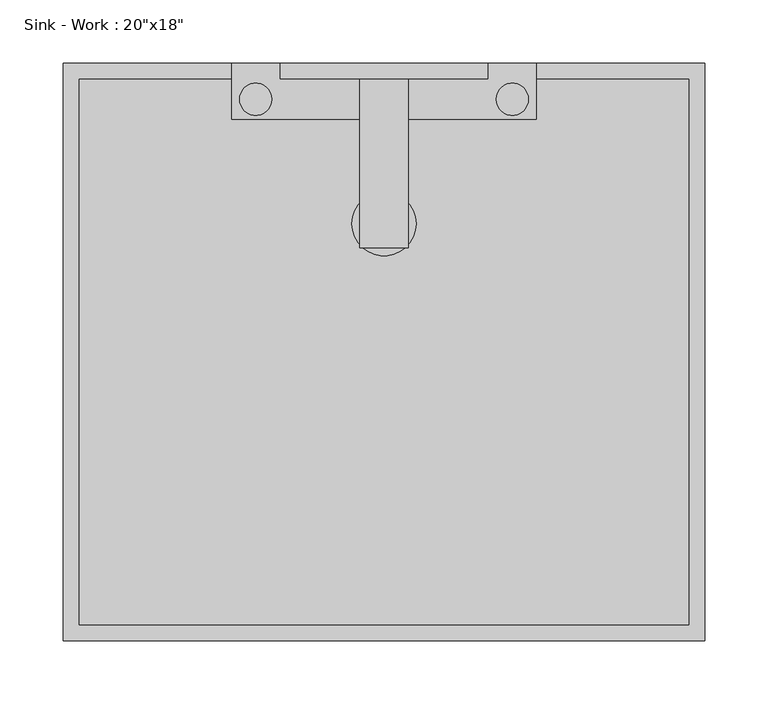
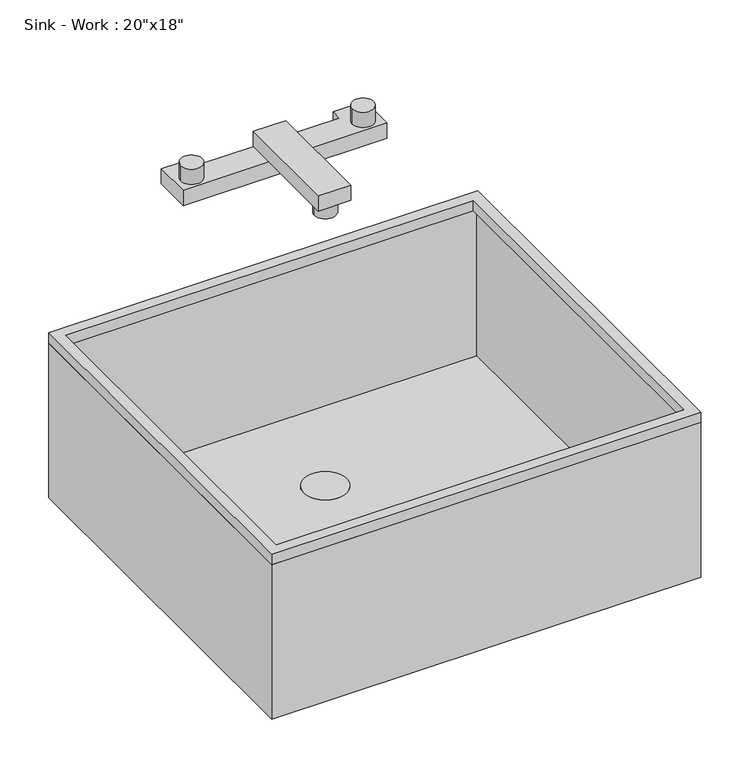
"""IFC4 building model written with IfcOpenShell, lengths in millimetres: flow terminal geometry."""

from ifc_helpers import new_model, si_unit, point, frame, frame_2d, origin, origin_with_axes, place, context, project, spatial, polyline, circle_curve, trimmed, segment, composite_curve, outline, extrude, faceted_brep, source, transform, mapped, element, save
from ifc_brep_helpers import plane_surface, cylinder_surface, advanced_brep


def flow_terminal_98dee406(model_context):
    return source(origin(), model_context, "Body", "SolidModel", [
        extrude(outline(polyline([(254.0, 0.0), (254.0, -457.2), (-254.0, -457.2), (-254.0, 0.0), (254.0, 0.0)]), holes=[polyline([(241.3, -12.7), (-241.3, -12.7), (-241.3, -444.5), (241.3, -444.5), (241.3, -12.7)])]), frame((0.0, 0.0, 193.675), z_axis=(0.0, 0.0, 1.0), x_axis=(1.0, 0.0, 0.0)), (0.0, 0.0, 1.0), 12.7),
        extrude(outline(composite_curve([segment(trimmed(circle_curve(frame_2d((0.0, -127.0)), 25.4), [point((-25.4, -127.0))], [point((25.4, -127.0))], False, "CARTESIAN"), True, "CONTINUOUS"), segment(trimmed(circle_curve(frame_2d((0.0, -127.0)), 25.4), [point((25.4, -127.0))], [point((-25.4, -127.0))], False, "CARTESIAN"), True, "CONTINUOUS")], self_intersect=False)), origin_with_axes(), (0.0, 0.0, 1.0), 3.175),
        faceted_brep([(254.0, 0.0, 193.675), (-254.0, 0.0, 193.675), (-254.0, -457.2, 193.675), (254.0, -457.2, 193.675), (250.825, -3.175, 193.675), (250.825, -454.025, 193.675), (-250.825, -454.025, 193.675), (-250.825, -3.175, 193.675), (254.0, 0.0, 0.0), (254.0, -457.2, 0.0), (-254.0, -457.2, 0.0), (-254.0, 0.0, 0.0), (250.825, -3.175, 3.175), (250.825, -454.025, 3.175), (-250.825, -454.025, 3.175), (-250.825, -3.175, 3.175)], [[[0, 1, 2, 3], [4, 5, 6, 7]], [[8, 9, 10, 11]], [[1, 0, 8, 11]], [[2, 1, 11, 10]], [[3, 2, 10, 9]], [[0, 3, 9, 8]], [[5, 4, 12, 13]], [[6, 5, 13, 14]], [[7, 6, 14, 15]], [[4, 7, 15, 12]], [[13, 12, 15, 14]]]),
        advanced_brep(
        [(19.05, -12.7, 384.175), (-19.05, -12.7, 384.175), (-19.05, -146.05, 384.175), (19.05, -146.05, 384.175), (19.05, -146.05, 365.125), (-19.05, -146.05, 365.125), (-19.05, -44.45, 365.125), (19.05, -44.45, 365.125), (-12.7, -127.0, 365.125), (12.7, -127.0, 365.125), (19.05, -12.7, 365.125), (82.55, -12.7, 365.125), (82.55, -12.7, 346.075), (-82.55, -12.7, 346.075), (-82.55, -12.7, 365.125), (-19.05, -12.7, 365.125), (-12.7, -127.0, 346.075), (12.7, -127.0, 346.075), (-82.55, 0.0, 365.125), (-120.65, 0.0, 365.125), (-120.65, -44.45, 365.125), (-88.9, -28.575, 365.125), (-114.3, -28.575, 365.125), (120.65, -44.45, 365.125), (120.65, 0.0, 365.125), (82.55, 0.0, 365.125), (114.3, -28.575, 365.125), (88.9, -28.575, 365.125), (-82.55, 0.0, 346.075), (82.55, 0.0, 346.075), (120.65, 0.0, 346.075), (120.65, -44.45, 346.075), (-120.65, -44.45, 346.075), (-120.65, 0.0, 346.075), (-114.3, -28.575, 384.175), (-88.9, -28.575, 384.175), (88.9, -28.575, 384.175), (114.3, -28.575, 384.175)],
        [
            (0, 1),
            (1, 2),
            (2, 3),
            (3, 0),
            (4, 5),
            (5, 6),
            (6, 7),
            (7, 4),
            (8, 9, circle_curve(frame((0.0, -127.0, 365.125), z_axis=(0.0, 0.0, 1.0), x_axis=(1.0, 0.0, 0.0)), 12.7)),
            (9, 8, circle_curve(frame((0.0, -127.0, 365.125), z_axis=(0.0, 0.0, 1.0), x_axis=(1.0, 0.0, 0.0)), 12.7)),
            (0, 10),
            (10, 11),
            (11, 12),
            (12, 13),
            (13, 14),
            (14, 15),
            (15, 1),
            (15, 6),
            (5, 2),
            (4, 3),
            (7, 10),
            (16, 17, circle_curve(frame((0.0, -127.0, 346.075), z_axis=(0.0, 0.0, -1.0), x_axis=(1.0, 0.0, 0.0)), 12.7)),
            (17, 16, circle_curve(frame((0.0, -127.0, 346.075), z_axis=(0.0, 0.0, -1.0), x_axis=(1.0, 0.0, 0.0)), 12.7)),
            (17, 9),
            (8, 16),
            (18, 19),
            (19, 20),
            (20, 6),
            (14, 18),
            (21, 22, circle_curve(frame((-101.6, -28.575, 365.125), z_axis=(0.0, 0.0, -1.0), x_axis=(1.0, 0.0, 0.0)), 12.7)),
            (22, 21, circle_curve(frame((-101.6, -28.575, 365.125), z_axis=(0.0, 0.0, -1.0), x_axis=(1.0, 0.0, 0.0)), 12.7)),
            (23, 24),
            (24, 25),
            (25, 11),
            (7, 23),
            (26, 27, circle_curve(frame((101.6, -28.575, 365.125), z_axis=(0.0, 0.0, -1.0), x_axis=(1.0, 0.0, 0.0)), 12.7)),
            (27, 26, circle_curve(frame((101.6, -28.575, 365.125), z_axis=(0.0, 0.0, -1.0), x_axis=(1.0, 0.0, 0.0)), 12.7)),
            (28, 13),
            (12, 29),
            (29, 30),
            (30, 31),
            (31, 32),
            (32, 33),
            (33, 28),
            (18, 28),
            (33, 19),
            (32, 20),
            (31, 23),
            (30, 24),
            (29, 25),
            (34, 35, circle_curve(frame((-101.6, -28.575, 384.175), z_axis=(0.0, 0.0, 1.0), x_axis=(1.0, 0.0, 0.0)), 12.7)),
            (35, 34, circle_curve(frame((-101.6, -28.575, 384.175), z_axis=(0.0, 0.0, 1.0), x_axis=(1.0, 0.0, 0.0)), 12.7)),
            (36, 37, circle_curve(frame((101.6, -28.575, 384.175), z_axis=(0.0, 0.0, 1.0), x_axis=(1.0, 0.0, 0.0)), 12.7)),
            (37, 36, circle_curve(frame((101.6, -28.575, 384.175), z_axis=(0.0, 0.0, 1.0), x_axis=(1.0, 0.0, 0.0)), 12.7)),
            (34, 22),
            (21, 35),
            (36, 27),
            (26, 37),
        ],
        [
            plane_surface(frame((-19.05, -12.7, 384.175), z_axis=(0.0, 0.0, 1.0), x_axis=(-1.0, 0.0, 0.0))),
            plane_surface(frame((-19.05, -12.7, 365.125), z_axis=(0.0, 0.0, -1.0), x_axis=(1.0, 0.0, 0.0))),
            plane_surface(frame((19.05, -12.7, 384.175), z_axis=(0.0, 1.0, 0.0), x_axis=(0.0, 0.0, -1.0))),
            plane_surface(frame((-19.05, -12.7, 384.175), z_axis=(-1.0, 0.0, 0.0), x_axis=(0.0, 0.0, -1.0))),
            plane_surface(frame((-19.05, -146.05, 384.175), z_axis=(0.0, -1.0, 0.0), x_axis=(0.0, 0.0, -1.0))),
            plane_surface(frame((19.05, -146.05, 384.175), z_axis=(1.0, 0.0, 0.0), x_axis=(0.0, 0.0, -1.0))),
            plane_surface(frame((12.7, -127.0, 346.075), z_axis=(0.0, 0.0, -1.0), x_axis=(0.0, -1.0, 0.0))),
            cylinder_surface(frame((0.0, -127.0, 346.075), z_axis=(0.0, 0.0, 1.0), x_axis=(1.0, 0.0, 0.0)), 12.7),
            plane_surface(frame((-120.65, 0.0, 365.125), z_axis=(0.0, 0.0, 1.0), x_axis=(-1.0, 0.0, 0.0))),
            plane_surface(frame((-120.65, 0.0, 346.075), z_axis=(0.0, 0.0, -1.0), x_axis=(1.0, 0.0, 0.0))),
            plane_surface(frame((-82.55, 0.0, 365.125), z_axis=(0.0, 1.0, 0.0), x_axis=(0.0, 0.0, -1.0))),
            plane_surface(frame((-120.65, 0.0, 365.125), z_axis=(-1.0, 0.0, 0.0), x_axis=(0.0, 0.0, -1.0))),
            plane_surface(frame((-120.65, -44.45, 365.125), z_axis=(0.0, -1.0, 0.0), x_axis=(0.0, 0.0, -1.0))),
            plane_surface(frame((120.65, -44.45, 365.125), z_axis=(1.0, 0.0, 0.0), x_axis=(0.0, 0.0, -1.0))),
            plane_surface(frame((120.65, 0.0, 365.125), z_axis=(0.0, 1.0, 0.0), x_axis=(0.0, 0.0, -1.0))),
            plane_surface(frame((82.55, 0.0, 365.125), z_axis=(-1.0, 0.0, 0.0), x_axis=(0.0, 0.0, -1.0))),
            plane_surface(frame((-82.55, -12.7, 365.125), z_axis=(1.0, 0.0, 0.0), x_axis=(0.0, 0.0, -1.0))),
            plane_surface(frame((-88.9, -28.575, 384.175), z_axis=(0.0, 0.0, 1.0), x_axis=(0.0, 1.0, 0.0))),
            cylinder_surface(frame((-101.6, -28.575, 365.125), z_axis=(0.0, 0.0, 1.0), x_axis=(1.0, 0.0, 0.0)), 12.7),
            cylinder_surface(frame((101.6, -28.575, 0.0), z_axis=(0.0, 0.0, 1.0), x_axis=(1.0, 0.0, 0.0)), 12.7),
        ],
        [
            (0, [[1, 2, 3, 4]]),
            (1, [[5, 6, 7, 8], [9, 10]]),
            (2, [[-1, 11, 12, 13, 14, 15, 16, 17]]),
            (3, [[-2, -17, 18, -6, 19]]),
            (4, [[-3, -19, -5, 20]]),
            (5, [[-4, -20, -8, 21, -11]]),
            (6, [[22, 23]]),
            (7, [[-23, 24, -9, 25]]),
            (7, [[-22, -25, -10, -24]]),
            (8, [[26, 27, 28, -18, -16, 29], [30, 31]]),
            (8, [[32, 33, 34, -12, -21, 35], [36, 37]]),
            (9, [[38, -14, 39, 40, 41, 42, 43, 44]]),
            (10, [[-26, 45, -44, 46]]),
            (11, [[-27, -46, -43, 47]]),
            (12, [[-42, 48, -35, -7, -28, -47]]),
            (13, [[-32, -48, -41, 49]]),
            (14, [[-33, -49, -40, 50]]),
            (15, [[-34, -50, -39, -13]]),
            (16, [[-29, -15, -38, -45]]),
            (17, [[51, 52]]),
            (17, [[53, 54]]),
            (18, [[-51, 55, -30, 56]]),
            (18, [[-52, -56, -31, -55]]),
            (19, [[-53, 57, -36, 58]]),
            (19, [[-54, -58, -37, -57]]),
        ],
    ),
    ])


if __name__ == "__main__":
    model = new_model("IFC4")
    model_context = context("Model", 3, world=origin())
    ifc_project = project(units=[si_unit("LENGTHUNIT", "METRE", prefix="MILLI")], contexts=[model_context])
    site = spatial("IfcSite", under=ifc_project)
    building = spatial("IfcBuilding", under=site)
    placement = place(None, origin())
    flow_terminal_shape = flow_terminal_98dee406(model_context)
    element("IfcFlowTerminal", 1, ObjectType="Sink - Work : 20\"x18\"", at=placement, inside=building, context=model_context, shape_type="MappedRepresentation", body=[
        mapped(flow_terminal_shape, transform((0.0, 0.0, 0.0), x_axis=(1.0, 0.0, 0.0), y_axis=(0.0, 1.0, 0.0), z_axis=(0.0, 0.0, 1.0))),
    ])
    save(model, "model.ifc")
